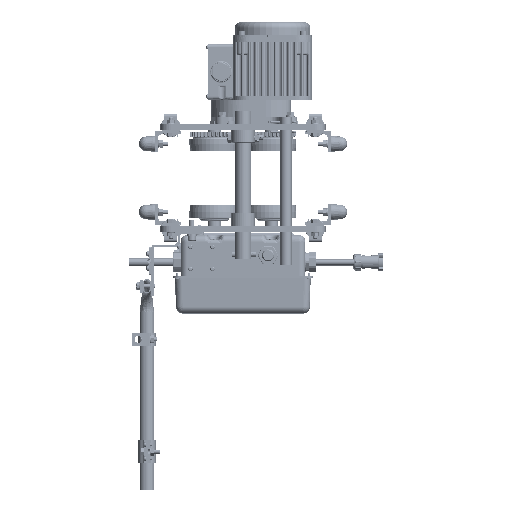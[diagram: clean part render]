
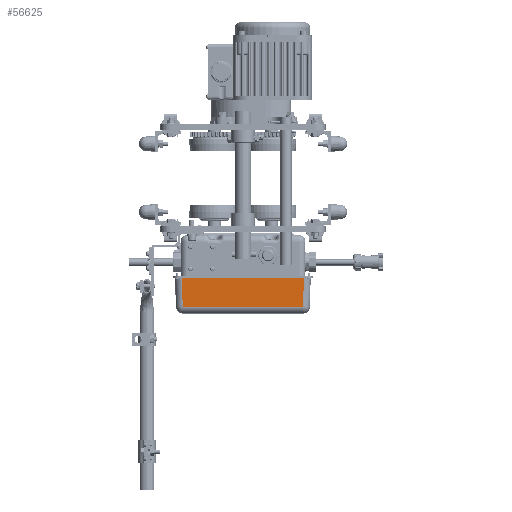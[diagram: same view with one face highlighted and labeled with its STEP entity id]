
A CAD part, front view. The second image highlights one B-rep face of the part: STEP entity #56625.
In plain terms, the highlighted planar face has unit normal (0, -0.999, -0.035) as drawn and (-0.035, -0.999, 0) by its records, which use the part's own axes.
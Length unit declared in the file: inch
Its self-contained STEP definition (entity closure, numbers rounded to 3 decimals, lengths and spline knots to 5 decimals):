
#4418 = ORIENTED_EDGE ( 'NONE', *, *, #9240, .T. ) ;
#8860 = DIRECTION ( 'NONE',  ( 0., 0., -1. ) ) ;
#9240 = EDGE_CURVE ( 'NONE', #54954, #92900, #182041, .T. ) ;
#14931 = VERTEX_POINT ( 'NONE', #48110 ) ;
#39874 = LINE ( 'NONE', #80644, #72306 ) ;
#45245 = EDGE_CURVE ( 'NONE', #181996, #14931, #132310, .T. ) ;
#48110 = CARTESIAN_POINT ( 'NONE',  ( -0.03937, 0.3937, 0.65822 ) ) ;
#54207 = DIRECTION ( 'NONE',  ( -0.035, -0.999, 0. ) ) ;
#54954 = VERTEX_POINT ( 'NONE', #71349 ) ;
#56625 = ADVANCED_FACE ( 'NONE', ( #73577 ), #100732, .T. ) ;
#57960 = ORIENTED_EDGE ( 'NONE', *, *, #78240, .T. ) ;
#63226 = LINE ( 'NONE', #77853, #188143 ) ;
#71349 = CARTESIAN_POINT ( 'NONE',  ( -0.03937, 0.3937, 9.83076 ) ) ;
#72306 = VECTOR ( 'NONE', #8860, 39.37008 ) ;
#73577 = FACE_OUTER_BOUND ( 'NONE', #168841, .T. ) ;
#77853 = CARTESIAN_POINT ( 'NONE',  ( -2.22259, 0.46994, 10.47244 ) ) ;
#78240 = EDGE_CURVE ( 'NONE', #92900, #181996, #63226, .T. ) ;
#80149 = VECTOR ( 'NONE', #120121, 39.37008 ) ;
#80644 = CARTESIAN_POINT ( 'NONE',  ( -0.03937, 0.3937, 10.47244 ) ) ;
#87565 = CARTESIAN_POINT ( 'NONE',  ( -2.22259, 0.46994, 0.73446 ) ) ;
#92127 = ORIENTED_EDGE ( 'NONE', *, *, #102225, .F. ) ;
#92900 = VERTEX_POINT ( 'NONE', #126236 ) ;
#100732 = PLANE ( 'NONE',  #161973 ) ;
#102225 = EDGE_CURVE ( 'NONE', #54954, #14931, #39874, .T. ) ;
#119717 = CARTESIAN_POINT ( 'NONE',  ( -1.42092, 0.44195, 0.70647 ) ) ;
#120121 = DIRECTION ( 'NONE',  ( -0.999, 0.035, -0.035 ) ) ;
#121989 = CARTESIAN_POINT ( 'NONE',  ( -2.69872, 0.48657, 9.7379 ) ) ;
#126236 = CARTESIAN_POINT ( 'NONE',  ( -2.22259, 0.46994, 9.75453 ) ) ;
#126667 = ORIENTED_EDGE ( 'NONE', *, *, #45245, .T. ) ;
#131651 = DIRECTION ( 'NONE',  ( 0.999, -0.035, 0. ) ) ;
#132310 = LINE ( 'NONE', #119717, #144335 ) ;
#134228 = DIRECTION ( 'NONE',  ( 0.999, -0.035, -0.035 ) ) ;
#144335 = VECTOR ( 'NONE', #134228, 39.37008 ) ;
#161973 = AXIS2_PLACEMENT_3D ( 'NONE', #190750, #54207, #131651 ) ;
#165981 = DIRECTION ( 'NONE',  ( 0., 0., -1. ) ) ;
#168841 = EDGE_LOOP ( 'NONE', ( #92127, #4418, #57960, #126667 ) ) ;
#181996 = VERTEX_POINT ( 'NONE', #87565 ) ;
#182041 = LINE ( 'NONE', #121989, #80149 ) ;
#188143 = VECTOR ( 'NONE', #165981, 39.37008 ) ;
#190750 = CARTESIAN_POINT ( 'NONE',  ( -1.0803, 0.43005, 10.47244 ) ) ;
